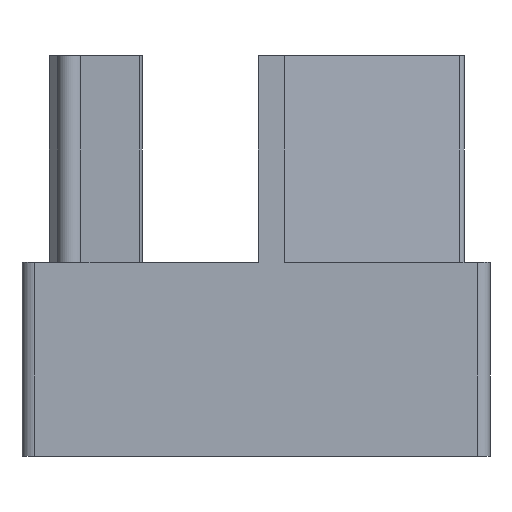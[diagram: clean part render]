
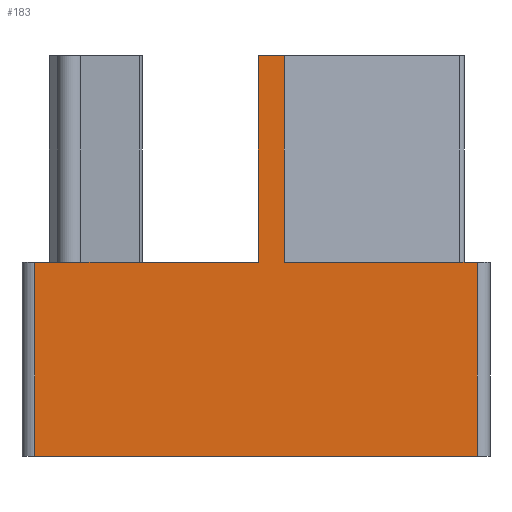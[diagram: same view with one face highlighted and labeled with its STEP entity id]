
A CAD part, front view. The second image highlights one B-rep face of the part: STEP entity #183.
In plain terms, the highlighted planar face has unit normal (0, -1, 0).
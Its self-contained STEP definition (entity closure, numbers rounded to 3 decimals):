
#19 = CARTESIAN_POINT ( 'NONE',  ( 9.136, 0., 15.5 ) ) ;
#30 = CARTESIAN_POINT ( 'NONE',  ( 0.5, 0., 7.5 ) ) ;
#37 = ORIENTED_EDGE ( 'NONE', *, *, #119, .F. ) ;
#49 = PLANE ( 'NONE',  #549 ) ;
#56 = VECTOR ( 'NONE', #369, 1000. ) ;
#81 = VERTEX_POINT ( 'NONE', #312 ) ;
#109 = FACE_OUTER_BOUND ( 'NONE', #729, .T. ) ;
#119 = EDGE_CURVE ( 'NONE', #441, #286, #511, .T. ) ;
#143 = LINE ( 'NONE', #805, #411 ) ;
#149 = ORIENTED_EDGE ( 'NONE', *, *, #713, .F. ) ;
#150 = LINE ( 'NONE', #685, #544 ) ;
#168 = ORIENTED_EDGE ( 'NONE', *, *, #626, .T. ) ;
#183 = ADVANCED_FACE ( 'NONE', ( #109 ), #49, .F. ) ;
#184 = DIRECTION ( 'NONE',  ( 0., 0., -1. ) ) ;
#228 = CARTESIAN_POINT ( 'NONE',  ( 10.136, 0., 15.5 ) ) ;
#229 = LINE ( 'NONE', #636, #540 ) ;
#238 = LINE ( 'NONE', #433, #56 ) ;
#245 = DIRECTION ( 'NONE',  ( 1., 0., 0. ) ) ;
#253 = ORIENTED_EDGE ( 'NONE', *, *, #744, .F. ) ;
#272 = DIRECTION ( 'NONE',  ( 0., 0., 1. ) ) ;
#277 = EDGE_CURVE ( 'NONE', #81, #282, #143, .T. ) ;
#282 = VERTEX_POINT ( 'NONE', #600 ) ;
#286 = VERTEX_POINT ( 'NONE', #531 ) ;
#288 = LINE ( 'NONE', #820, #654 ) ;
#309 = CARTESIAN_POINT ( 'NONE',  ( 9.136, 0., 15.5 ) ) ;
#312 = CARTESIAN_POINT ( 'NONE',  ( 17.6, 0., 0. ) ) ;
#318 = VECTOR ( 'NONE', #245, 1000. ) ;
#330 = CARTESIAN_POINT ( 'NONE',  ( 0., 0., 7.5 ) ) ;
#351 = VERTEX_POINT ( 'NONE', #19 ) ;
#366 = VERTEX_POINT ( 'NONE', #228 ) ;
#369 = DIRECTION ( 'NONE',  ( 1., 0., 0. ) ) ;
#370 = DIRECTION ( 'NONE',  ( 1., 0., 0. ) ) ;
#377 = DIRECTION ( 'NONE',  ( 0., 0., 1. ) ) ;
#411 = VECTOR ( 'NONE', #272, 1000. ) ;
#423 = VERTEX_POINT ( 'NONE', #629 ) ;
#433 = CARTESIAN_POINT ( 'NONE',  ( 0., 0., 15.5 ) ) ;
#441 = VERTEX_POINT ( 'NONE', #30 ) ;
#491 = EDGE_CURVE ( 'NONE', #351, #366, #238, .T. ) ;
#502 = EDGE_CURVE ( 'NONE', #441, #737, #150, .T. ) ;
#504 = CARTESIAN_POINT ( 'NONE',  ( 0., 0., 0. ) ) ;
#509 = ORIENTED_EDGE ( 'NONE', *, *, #277, .T. ) ;
#511 = LINE ( 'NONE', #663, #318 ) ;
#531 = CARTESIAN_POINT ( 'NONE',  ( 9.136, 0., 7.5 ) ) ;
#540 = VECTOR ( 'NONE', #621, 1000. ) ;
#544 = VECTOR ( 'NONE', #184, 1000. ) ;
#549 = AXIS2_PLACEMENT_3D ( 'NONE', #330, #594, #377 ) ;
#594 = DIRECTION ( 'NONE',  ( 0., 1., 0. ) ) ;
#595 = ORIENTED_EDGE ( 'NONE', *, *, #502, .T. ) ;
#600 = CARTESIAN_POINT ( 'NONE',  ( 17.6, 0., 7.5 ) ) ;
#621 = DIRECTION ( 'NONE',  ( 0., 0., -1. ) ) ;
#626 = EDGE_CURVE ( 'NONE', #351, #286, #710, .T. ) ;
#629 = CARTESIAN_POINT ( 'NONE',  ( 10.136, 0., 7.5 ) ) ;
#636 = CARTESIAN_POINT ( 'NONE',  ( 10.136, 0., 15.5 ) ) ;
#654 = VECTOR ( 'NONE', #370, 1000. ) ;
#663 = CARTESIAN_POINT ( 'NONE',  ( 0., 0., 7.5 ) ) ;
#672 = EDGE_CURVE ( 'NONE', #737, #81, #770, .T. ) ;
#685 = CARTESIAN_POINT ( 'NONE',  ( 0.5, 0., 7.5 ) ) ;
#687 = CARTESIAN_POINT ( 'NONE',  ( 0.5, 0., 0. ) ) ;
#688 = VECTOR ( 'NONE', #693, 1000. ) ;
#693 = DIRECTION ( 'NONE',  ( 1., 0., 0. ) ) ;
#710 = LINE ( 'NONE', #309, #758 ) ;
#713 = EDGE_CURVE ( 'NONE', #366, #423, #229, .T. ) ;
#729 = EDGE_LOOP ( 'NONE', ( #826, #509, #253, #149, #855, #168, #37, #595 ) ) ;
#737 = VERTEX_POINT ( 'NONE', #687 ) ;
#744 = EDGE_CURVE ( 'NONE', #423, #282, #288, .T. ) ;
#758 = VECTOR ( 'NONE', #843, 1000. ) ;
#770 = LINE ( 'NONE', #504, #688 ) ;
#805 = CARTESIAN_POINT ( 'NONE',  ( 17.6, 0., 7.5 ) ) ;
#820 = CARTESIAN_POINT ( 'NONE',  ( 0., 0., 7.5 ) ) ;
#826 = ORIENTED_EDGE ( 'NONE', *, *, #672, .T. ) ;
#843 = DIRECTION ( 'NONE',  ( 0., 0., -1. ) ) ;
#855 = ORIENTED_EDGE ( 'NONE', *, *, #491, .F. ) ;
